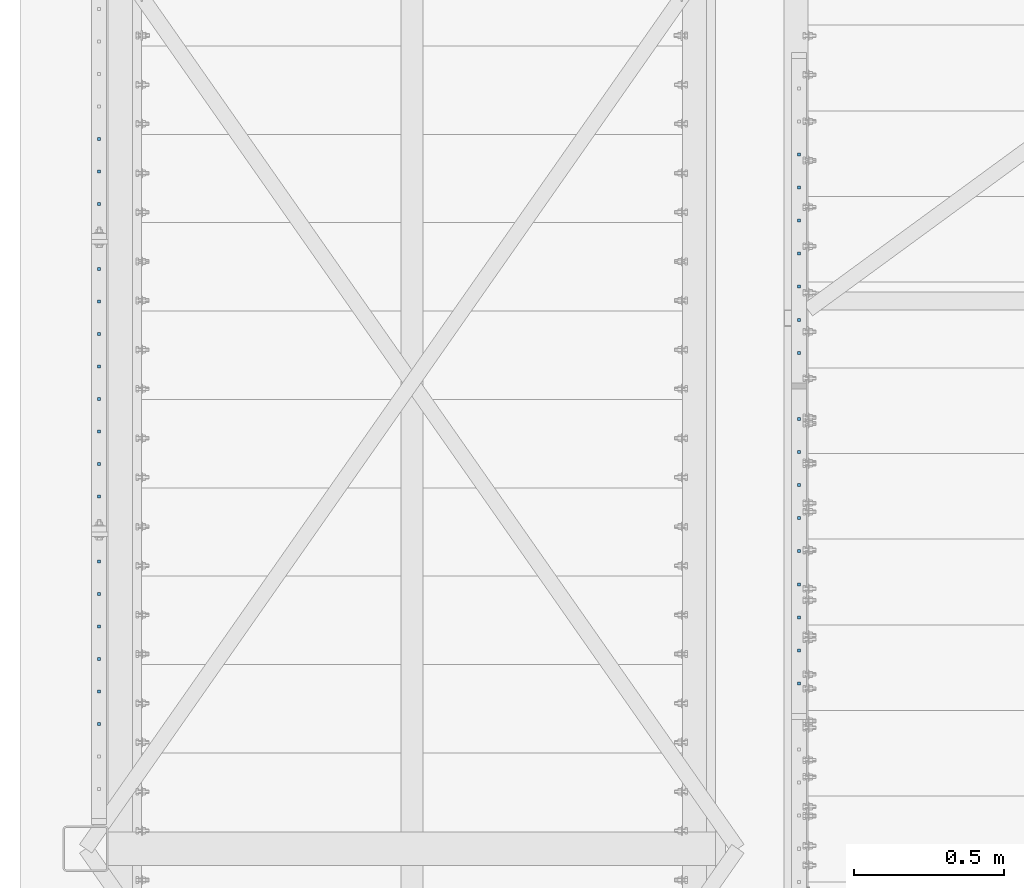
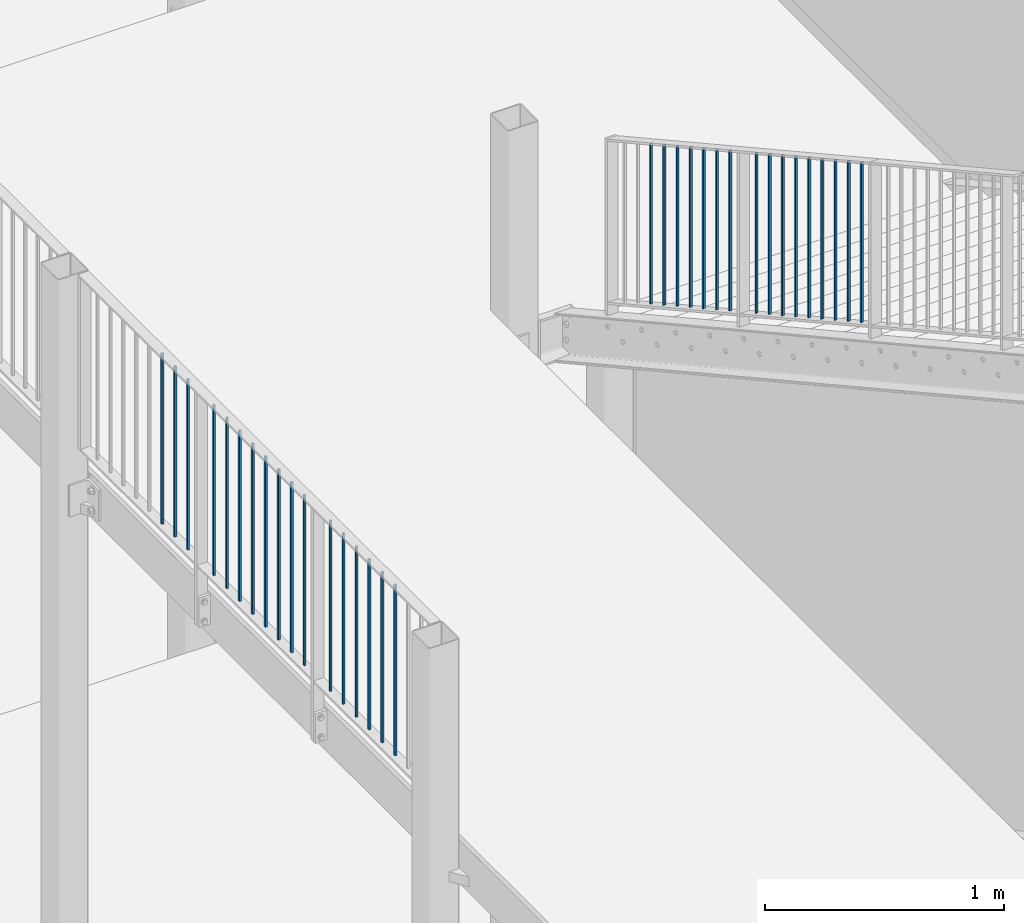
# One storey, part 42 of 78: 33 beams, 2 elements without a shape of their own.
"""IFC2X3 building model written with IfcOpenShell, lengths in millimetres."""

from ifc_helpers import new_model, si_unit, frame, origin_with_axes, origin_2d_with_axis, place, context, subcontext, project, spatial, rectangle, extrude, clip, halfspace, material, type_object, element, aggregate, save


model = new_model("IFC2X3")

# Units and contexts
model_context = context("Model", 3, precision=1e-05, world=origin_with_axes())
body_context = subcontext(model_context, "Body", "Model", "MODEL_VIEW")
ifc_project = project(units=[si_unit("LENGTHUNIT", "METRE", prefix="MILLI"), si_unit("AREAUNIT", "SQUARE_METRE"), si_unit("VOLUMEUNIT", "CUBIC_METRE"), si_unit("MASSUNIT", "GRAM", prefix="KILO"), si_unit("TIMEUNIT", "SECOND"), si_unit("PLANEANGLEUNIT", "RADIAN"), si_unit("SOLIDANGLEUNIT", "STERADIAN"), si_unit("THERMODYNAMICTEMPERATUREUNIT", "DEGREE_CELSIUS"), si_unit("LUMINOUSINTENSITYUNIT", "LUMEN")], contexts=[model_context])

# Site, building, storey
site_placement = place(None, origin_with_axes())
site = spatial("IfcSite", under=ifc_project, at=site_placement, Name="Site", CompositionType="ELEMENT")
building_placement = place(site_placement, origin_with_axes())
building = spatial("IfcBuilding", under=site, at=building_placement, Name="Undefined", CompositionType="ELEMENT")
storey_placement = place(building_placement, origin_with_axes())
storey = spatial("IfcBuildingStorey", under=building, at=storey_placement, Name="Undefined", CompositionType="ELEMENT", Elevation=0.0)

# Assembly, beams
assembly_1_placement = place(storey_placement, origin_with_axes())
assembly_1 = element("IfcElementAssembly", 1, at=assembly_1_placement, inside=storey, Name="MAIN_COURANTE", AssemblyPlace="NOTDEFINED", PredefinedType="RIGID_FRAME")
ifc_material = material(Name="STEEL/S235JR")
beam_type = type_object("IfcBeamType", Name="PL10*10", PredefinedType="NOTDEFINED")
beam_1_placement = place(assembly_1_placement, frame((-35341.43, 7746.88888888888, 157695.04), z_axis=(1.0, 0.0, 0.0), x_axis=(0.0, 0.0, -1.0)))
beam_1 = element("IfcBeam", 2, at=beam_1_placement, type_object=beam_type, material=ifc_material, Name="LISSE", ObjectType="PL10*10", context=body_context, shape_type="Clipping", body=[
    clip(clip(extrude(rectangle(XDim=10.0, YDim=10.0, at=origin_2d_with_axis()), frame((880.0, 0.0, 0.0), z_axis=(-1.0, 0.0, 0.0), x_axis=(0.0, -1.0, 0.0)), (0.0, 0.0, 1.0), 880.0), halfspace(frame((875.0, 0.0, 1005.0), z_axis=(1.0, 0.0, 0.0), x_axis=(0.0, 1.0, 0.0)), False)), halfspace(frame((5.0, 0.0, 1005.0), z_axis=(-1.0, 0.0, 0.0), x_axis=(0.0, -1.0, 0.0)), False)),
])
beam_2_placement = place(assembly_1_placement, frame((-35341.43, 7855.03703703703, 157695.04), z_axis=(1.0, 0.0, 0.0), x_axis=(0.0, 0.0, -1.0)))
beam_2 = element("IfcBeam", 3, at=beam_2_placement, type_object=beam_type, material=ifc_material, Name="LISSE", ObjectType="PL10*10", context=body_context, shape_type="Clipping", body=[
    clip(clip(extrude(rectangle(XDim=10.0, YDim=10.0, at=origin_2d_with_axis()), frame((880.0, 0.0, 0.0), z_axis=(-1.0, 0.0, 0.0), x_axis=(0.0, -1.0, 0.0)), (0.0, 0.0, 1.0), 880.0), halfspace(frame((875.0, 0.0, 1005.0), z_axis=(1.0, 0.0, 0.0), x_axis=(0.0, 1.0, 0.0)), False)), halfspace(frame((5.0, 0.0, 1005.0), z_axis=(-1.0, 0.0, 0.0), x_axis=(0.0, -1.0, 0.0)), False)),
])
beam_3_placement = place(assembly_1_placement, frame((-35341.43, 7963.18518518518, 157695.04), z_axis=(1.0, 0.0, 0.0), x_axis=(0.0, 0.0, -1.0)))
beam_3 = element("IfcBeam", 4, at=beam_3_placement, type_object=beam_type, material=ifc_material, Name="LISSE", ObjectType="PL10*10", context=body_context, shape_type="Clipping", body=[
    clip(clip(extrude(rectangle(XDim=10.0, YDim=10.0, at=origin_2d_with_axis()), frame((880.0, 0.0, 0.0), z_axis=(-1.0, 0.0, 0.0), x_axis=(0.0, -1.0, 0.0)), (0.0, 0.0, 1.0), 880.0), halfspace(frame((875.0, 0.0, 1005.0), z_axis=(1.0, 0.0, 0.0), x_axis=(0.0, 1.0, 0.0)), False)), halfspace(frame((5.0, 0.0, 1005.0), z_axis=(-1.0, 0.0, 0.0), x_axis=(0.0, -1.0, 0.0)), False)),
])
beam_4_placement = place(assembly_1_placement, frame((-35341.43, 8179.48148148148, 157695.04), z_axis=(1.0, 0.0, 0.0), x_axis=(0.0, 0.0, -1.0)))
beam_4 = element("IfcBeam", 5, at=beam_4_placement, type_object=beam_type, material=ifc_material, Name="LISSE", ObjectType="PL10*10", context=body_context, shape_type="Clipping", body=[
    clip(clip(extrude(rectangle(XDim=10.0, YDim=10.0, at=origin_2d_with_axis()), frame((880.0, 0.0, 0.0), z_axis=(-1.0, 0.0, 0.0), x_axis=(0.0, -1.0, 0.0)), (0.0, 0.0, 1.0), 880.0), halfspace(frame((875.0, 0.0, 1005.0), z_axis=(1.0, 0.0, 0.0), x_axis=(0.0, 1.0, 0.0)), False)), halfspace(frame((5.0, 0.0, 1005.0), z_axis=(-1.0, 0.0, 0.0), x_axis=(0.0, -1.0, 0.0)), False)),
])
beam_5_placement = place(assembly_1_placement, frame((-35341.43, 8287.62962962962, 157695.04), z_axis=(1.0, 0.0, 0.0), x_axis=(0.0, 0.0, -1.0)))
beam_5 = element("IfcBeam", 6, at=beam_5_placement, type_object=beam_type, material=ifc_material, Name="LISSE", ObjectType="PL10*10", context=body_context, shape_type="Clipping", body=[
    clip(clip(extrude(rectangle(XDim=10.0, YDim=10.0, at=origin_2d_with_axis()), frame((880.0, 0.0, 0.0), z_axis=(-1.0, 0.0, 0.0), x_axis=(0.0, -1.0, 0.0)), (0.0, 0.0, 1.0), 880.0), halfspace(frame((875.0, 0.0, 1005.0), z_axis=(1.0, 0.0, 0.0), x_axis=(0.0, 1.0, 0.0)), False)), halfspace(frame((5.0, 0.0, 1005.0), z_axis=(-1.0, 0.0, 0.0), x_axis=(0.0, -1.0, 0.0)), False)),
])
beam_6_placement = place(assembly_1_placement, frame((-35341.43, 8395.77777777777, 157695.04), z_axis=(1.0, 0.0, 0.0), x_axis=(0.0, 0.0, -1.0)))
beam_6 = element("IfcBeam", 7, at=beam_6_placement, type_object=beam_type, material=ifc_material, Name="LISSE", ObjectType="PL10*10", context=body_context, shape_type="Clipping", body=[
    clip(clip(extrude(rectangle(XDim=10.0, YDim=10.0, at=origin_2d_with_axis()), frame((880.0, 0.0, 0.0), z_axis=(-1.0, 0.0, 0.0), x_axis=(0.0, -1.0, 0.0)), (0.0, 0.0, 1.0), 880.0), halfspace(frame((875.0, 0.0, 1005.0), z_axis=(1.0, 0.0, 0.0), x_axis=(0.0, 1.0, 0.0)), False)), halfspace(frame((5.0, 0.0, 1005.0), z_axis=(-1.0, 0.0, 0.0), x_axis=(0.0, -1.0, 0.0)), False)),
])
beam_7_placement = place(assembly_1_placement, frame((-35341.43, 8503.92592592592, 157695.04), z_axis=(1.0, 0.0, 0.0), x_axis=(0.0, 0.0, -1.0)))
beam_7 = element("IfcBeam", 8, at=beam_7_placement, type_object=beam_type, material=ifc_material, Name="LISSE", ObjectType="PL10*10", context=body_context, shape_type="Clipping", body=[
    clip(clip(extrude(rectangle(XDim=10.0, YDim=10.0, at=origin_2d_with_axis()), frame((880.0, 0.0, 0.0), z_axis=(-1.0, 0.0, 0.0), x_axis=(0.0, -1.0, 0.0)), (0.0, 0.0, 1.0), 880.0), halfspace(frame((875.0, 0.0, 1005.0), z_axis=(1.0, 0.0, 0.0), x_axis=(0.0, 1.0, 0.0)), False)), halfspace(frame((5.0, 0.0, 1005.0), z_axis=(-1.0, 0.0, 0.0), x_axis=(0.0, -1.0, 0.0)), False)),
])
beam_8_placement = place(assembly_1_placement, frame((-35341.43, 8612.07407407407, 157695.04), z_axis=(1.0, 0.0, 0.0), x_axis=(0.0, 0.0, -1.0)))
beam_8 = element("IfcBeam", 9, at=beam_8_placement, type_object=beam_type, material=ifc_material, Name="LISSE", ObjectType="PL10*10", context=body_context, shape_type="Clipping", body=[
    clip(clip(extrude(rectangle(XDim=10.0, YDim=10.0, at=origin_2d_with_axis()), frame((880.0, 0.0, 0.0), z_axis=(-1.0, 0.0, 0.0), x_axis=(0.0, -1.0, 0.0)), (0.0, 0.0, 1.0), 880.0), halfspace(frame((875.0, 0.0, 1005.0), z_axis=(1.0, 0.0, 0.0), x_axis=(0.0, 1.0, 0.0)), False)), halfspace(frame((5.0, 0.0, 1005.0), z_axis=(-1.0, 0.0, 0.0), x_axis=(0.0, -1.0, 0.0)), False)),
])
beam_9_placement = place(assembly_1_placement, frame((-35341.43, 8720.22222222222, 157695.04), z_axis=(1.0, 0.0, 0.0), x_axis=(0.0, 0.0, -1.0)))
beam_9 = element("IfcBeam", 10, at=beam_9_placement, type_object=beam_type, material=ifc_material, Name="LISSE", ObjectType="PL10*10", context=body_context, shape_type="Clipping", body=[
    clip(clip(extrude(rectangle(XDim=10.0, YDim=10.0, at=origin_2d_with_axis()), frame((880.0, 0.0, 0.0), z_axis=(-1.0, 0.0, 0.0), x_axis=(0.0, -1.0, 0.0)), (0.0, 0.0, 1.0), 880.0), halfspace(frame((875.0, 0.0, 1005.0), z_axis=(1.0, 0.0, 0.0), x_axis=(0.0, 1.0, 0.0)), False)), halfspace(frame((5.0, 0.0, 1005.0), z_axis=(-1.0, 0.0, 0.0), x_axis=(0.0, -1.0, 0.0)), False)),
])
beam_10_placement = place(assembly_1_placement, frame((-35341.43, 8828.37037037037, 157695.04), z_axis=(1.0, 0.0, 0.0), x_axis=(0.0, 0.0, -1.0)))
beam_10 = element("IfcBeam", 11, at=beam_10_placement, type_object=beam_type, material=ifc_material, Name="LISSE", ObjectType="PL10*10", context=body_context, shape_type="Clipping", body=[
    clip(clip(extrude(rectangle(XDim=10.0, YDim=10.0, at=origin_2d_with_axis()), frame((880.0, 0.0, 0.0), z_axis=(-1.0, 0.0, 0.0), x_axis=(0.0, -1.0, 0.0)), (0.0, 0.0, 1.0), 880.0), halfspace(frame((875.0, 0.0, 1005.0), z_axis=(1.0, 0.0, 0.0), x_axis=(0.0, 1.0, 0.0)), False)), halfspace(frame((5.0, 0.0, 1005.0), z_axis=(-1.0, 0.0, 0.0), x_axis=(0.0, -1.0, 0.0)), False)),
])
beam_11_placement = place(assembly_1_placement, frame((-35341.43, 8936.51851851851, 157695.04), z_axis=(1.0, 0.0, 0.0), x_axis=(0.0, 0.0, -1.0)))
beam_11 = element("IfcBeam", 12, at=beam_11_placement, type_object=beam_type, material=ifc_material, Name="LISSE", ObjectType="PL10*10", context=body_context, shape_type="Clipping", body=[
    clip(clip(extrude(rectangle(XDim=10.0, YDim=10.0, at=origin_2d_with_axis()), frame((880.0, 0.0, 0.0), z_axis=(-1.0, 0.0, 0.0), x_axis=(0.0, -1.0, 0.0)), (0.0, 0.0, 1.0), 880.0), halfspace(frame((875.0, 0.0, 1005.0), z_axis=(1.0, 0.0, 0.0), x_axis=(0.0, 1.0, 0.0)), False)), halfspace(frame((5.0, 0.0, 1005.0), z_axis=(-1.0, 0.0, 0.0), x_axis=(0.0, -1.0, 0.0)), False)),
])
beam_12_placement = place(assembly_1_placement, frame((-35341.43, 9152.81481481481, 157695.04), z_axis=(1.0, 0.0, 0.0), x_axis=(0.0, 0.0, -1.0)))
beam_12 = element("IfcBeam", 13, at=beam_12_placement, type_object=beam_type, material=ifc_material, Name="LISSE", ObjectType="PL10*10", context=body_context, shape_type="Clipping", body=[
    clip(clip(extrude(rectangle(XDim=10.0, YDim=10.0, at=origin_2d_with_axis()), frame((880.0, 0.0, 0.0), z_axis=(-1.0, 0.0, 0.0), x_axis=(0.0, -1.0, 0.0)), (0.0, 0.0, 1.0), 880.0), halfspace(frame((875.0, 0.0, 1005.0), z_axis=(1.0, 0.0, 0.0), x_axis=(0.0, 1.0, 0.0)), False)), halfspace(frame((5.0, 0.0, 1005.0), z_axis=(-1.0, 0.0, 0.0), x_axis=(0.0, -1.0, 0.0)), False)),
])
beam_13_placement = place(assembly_1_placement, frame((-35341.43, 9260.96296296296, 157695.04), z_axis=(1.0, 0.0, 0.0), x_axis=(0.0, 0.0, -1.0)))
beam_13 = element("IfcBeam", 14, at=beam_13_placement, type_object=beam_type, material=ifc_material, Name="LISSE", ObjectType="PL10*10", context=body_context, shape_type="Clipping", body=[
    clip(clip(extrude(rectangle(XDim=10.0, YDim=10.0, at=origin_2d_with_axis()), frame((880.0, 0.0, 0.0), z_axis=(-1.0, 0.0, 0.0), x_axis=(0.0, -1.0, 0.0)), (0.0, 0.0, 1.0), 880.0), halfspace(frame((875.0, 0.0, 1005.0), z_axis=(1.0, 0.0, 0.0), x_axis=(0.0, 1.0, 0.0)), False)), halfspace(frame((5.0, 0.0, 1005.0), z_axis=(-1.0, 0.0, 0.0), x_axis=(0.0, -1.0, 0.0)), False)),
])
beam_14_placement = place(assembly_1_placement, frame((-35341.43, 9369.11111111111, 157695.04), z_axis=(1.0, 0.0, 0.0), x_axis=(0.0, 0.0, -1.0)))
beam_14 = element("IfcBeam", 15, at=beam_14_placement, type_object=beam_type, material=ifc_material, Name="LISSE", ObjectType="PL10*10", context=body_context, shape_type="Clipping", body=[
    clip(clip(extrude(rectangle(XDim=10.0, YDim=10.0, at=origin_2d_with_axis()), frame((880.0, 0.0, 0.0), z_axis=(-1.0, 0.0, 0.0), x_axis=(0.0, -1.0, 0.0)), (0.0, 0.0, 1.0), 880.0), halfspace(frame((875.0, 0.0, 1005.0), z_axis=(1.0, 0.0, 0.0), x_axis=(0.0, 1.0, 0.0)), False)), halfspace(frame((5.0, 0.0, 1005.0), z_axis=(-1.0, 0.0, 0.0), x_axis=(0.0, -1.0, 0.0)), False)),
])
beam_15_placement = place(assembly_1_placement, frame((-35341.43, 7530.59259259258, 157695.04), z_axis=(1.0, 0.0, 0.0), x_axis=(0.0, 0.0, -1.0)))
beam_15 = element("IfcBeam", 16, at=beam_15_placement, type_object=beam_type, material=ifc_material, Name="LISSE", ObjectType="PL10*10", context=body_context, shape_type="Clipping", body=[
    clip(clip(extrude(rectangle(XDim=10.0, YDim=10.0, at=origin_2d_with_axis()), frame((880.0, 0.0, 0.0), z_axis=(-1.0, 0.0, 0.0), x_axis=(0.0, -1.0, 0.0)), (0.0, 0.0, 1.0), 880.0), halfspace(frame((875.0, 0.0, 1005.0), z_axis=(1.0, 0.0, 0.0), x_axis=(0.0, 1.0, 0.0)), False)), halfspace(frame((5.0, 0.0, 1005.0), z_axis=(-1.0, 0.0, 0.0), x_axis=(0.0, -1.0, 0.0)), False)),
])
beam_16_placement = place(assembly_1_placement, frame((-35341.43, 7638.74074074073, 157695.04), z_axis=(1.0, 0.0, 0.0), x_axis=(0.0, 0.0, -1.0)))
beam_16 = element("IfcBeam", 17, at=beam_16_placement, type_object=beam_type, material=ifc_material, Name="LISSE", ObjectType="PL10*10", context=body_context, shape_type="Clipping", body=[
    clip(clip(extrude(rectangle(XDim=10.0, YDim=10.0, at=origin_2d_with_axis()), frame((880.0, 0.0, 0.0), z_axis=(-1.0, 0.0, 0.0), x_axis=(0.0, -1.0, 0.0)), (0.0, 0.0, 1.0), 880.0), halfspace(frame((875.0, 0.0, 1005.0), z_axis=(1.0, 0.0, 0.0), x_axis=(0.0, 1.0, 0.0)), False)), halfspace(frame((5.0, 0.0, 1005.0), z_axis=(-1.0, 0.0, 0.0), x_axis=(0.0, -1.0, 0.0)), False)),
])
beam_17_placement = place(assembly_1_placement, frame((-35341.43, 7422.44444444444, 157695.04), z_axis=(1.0, 0.0, 0.0), x_axis=(0.0, 0.0, -1.0)))
beam_17 = element("IfcBeam", 18, at=beam_17_placement, type_object=beam_type, material=ifc_material, Name="LISSE", ObjectType="PL10*10", context=body_context, shape_type="Clipping", body=[
    clip(clip(extrude(rectangle(XDim=10.0, YDim=10.0, at=origin_2d_with_axis()), frame((880.0, 0.0, 0.0), z_axis=(-1.0, 0.0, 0.0), x_axis=(0.0, -1.0, 0.0)), (0.0, 0.0, 1.0), 880.0), halfspace(frame((875.0, 0.0, 1005.0), z_axis=(1.0, 0.0, 0.0), x_axis=(0.0, 1.0, 0.0)), False)), halfspace(frame((5.0, 0.0, 1005.0), z_axis=(-1.0, 0.0, 0.0), x_axis=(0.0, -1.0, 0.0)), False)),
])
aggregate(assembly_1, [beam_1, beam_2, beam_3, beam_4, beam_5, beam_6, beam_7, beam_8, beam_9, beam_10, beam_11, beam_12, beam_13, beam_14, beam_15, beam_16, beam_17])

assembly_2_placement = place(storey_placement, origin_with_axes())
assembly_2 = element("IfcElementAssembly", 19, at=assembly_2_placement, inside=storey, Name="MAIN_COURANTE", AssemblyPlace="NOTDEFINED", PredefinedType="RIGID_FRAME")
beam_18_placement = place(assembly_2_placement, frame((-33012.8599999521, 7557.99999988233, 158954.590450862), z_axis=(1.0, 0.0, 0.0), x_axis=(0.0, 0.0, -1.0)))
beam_18 = element("IfcBeam", 20, at=beam_18_placement, type_object=beam_type, material=ifc_material, Name="LISSE", ObjectType="PL10*10", context=body_context, shape_type="Clipping", body=[
    clip(clip(extrude(rectangle(XDim=10.0, YDim=10.0, at=origin_2d_with_axis()), frame((831.449999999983, 0.0, 0.0), z_axis=(-1.0, 0.0, 0.0), x_axis=(0.0, -1.0, 0.0)), (0.0, 0.0, 1.0), 831.45), halfspace(frame((825.737291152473, 9.09494701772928e-13, 1005.0), z_axis=(0.875241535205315, -0.48368611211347, 0.0), x_axis=(0.48368611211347, 0.875241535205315, 0.0)), False)), halfspace(frame((5.71270869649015, 9.09494701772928e-13, 1005.0), z_axis=(-0.875241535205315, 0.483686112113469, 0.0), x_axis=(-0.483686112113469, -0.875241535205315, 0.0)), False)),
])
beam_19_placement = place(assembly_2_placement, frame((-33012.8599999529, 7667.99999988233, 158893.800977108), z_axis=(1.0, 0.0, 0.0), x_axis=(0.0, 0.0, -1.0)))
beam_19 = element("IfcBeam", 21, at=beam_19_placement, type_object=beam_type, material=ifc_material, Name="LISSE", ObjectType="PL10*10", context=body_context, shape_type="Clipping", body=[
    clip(clip(extrude(rectangle(XDim=10.0, YDim=10.0, at=origin_2d_with_axis()), frame((831.449999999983, 0.0, 0.0), z_axis=(-1.0, 0.0, 0.0), x_axis=(0.0, -1.0, 0.0)), (0.0, 0.0, 1.0), 831.45), halfspace(frame((825.737291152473, 9.09494701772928e-13, 1005.0), z_axis=(0.875241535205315, -0.48368611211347, 0.0), x_axis=(0.48368611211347, 0.875241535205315, 0.0)), False)), halfspace(frame((5.71270869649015, 9.09494701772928e-13, 1005.0), z_axis=(-0.875241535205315, 0.483686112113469, 0.0), x_axis=(-0.483686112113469, -0.875241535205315, 0.0)), False)),
])
beam_20_placement = place(assembly_2_placement, frame((-33012.8599999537, 7777.99999988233, 158833.011503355), z_axis=(1.0, 0.0, 0.0), x_axis=(0.0, 0.0, -1.0)))
beam_20 = element("IfcBeam", 22, at=beam_20_placement, type_object=beam_type, material=ifc_material, Name="LISSE", ObjectType="PL10*10", context=body_context, shape_type="Clipping", body=[
    clip(clip(extrude(rectangle(XDim=10.0, YDim=10.0, at=origin_2d_with_axis()), frame((831.449999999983, 0.0, 0.0), z_axis=(-1.0, 0.0, 0.0), x_axis=(0.0, -1.0, 0.0)), (0.0, 0.0, 1.0), 831.45), halfspace(frame((825.737291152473, 9.09494701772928e-13, 1005.0), z_axis=(0.875241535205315, -0.48368611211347, 0.0), x_axis=(0.48368611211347, 0.875241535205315, 0.0)), False)), halfspace(frame((5.71270869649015, 9.09494701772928e-13, 1005.0), z_axis=(-0.875241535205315, 0.483686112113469, 0.0), x_axis=(-0.483686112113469, -0.875241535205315, 0.0)), False)),
])
beam_21_placement = place(assembly_2_placement, frame((-33012.8599999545, 7887.99999988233, 158772.222029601), z_axis=(1.0, 0.0, 0.0), x_axis=(0.0, 0.0, -1.0)))
beam_21 = element("IfcBeam", 23, at=beam_21_placement, type_object=beam_type, material=ifc_material, Name="LISSE", ObjectType="PL10*10", context=body_context, shape_type="Clipping", body=[
    clip(clip(extrude(rectangle(XDim=10.0, YDim=10.0, at=origin_2d_with_axis()), frame((831.449999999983, 0.0, 0.0), z_axis=(-1.0, 0.0, 0.0), x_axis=(0.0, -1.0, 0.0)), (0.0, 0.0, 1.0), 831.45), halfspace(frame((825.737291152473, 9.09494701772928e-13, 1005.0), z_axis=(0.875241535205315, -0.48368611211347, 0.0), x_axis=(0.48368611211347, 0.875241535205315, 0.0)), False)), halfspace(frame((5.71270869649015, 9.09494701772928e-13, 1005.0), z_axis=(-0.875241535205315, 0.483686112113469, 0.0), x_axis=(-0.483686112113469, -0.875241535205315, 0.0)), False)),
])
beam_22_placement = place(assembly_2_placement, frame((-33012.8599999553, 7997.99999988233, 158711.432555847), z_axis=(1.0, 0.0, 0.0), x_axis=(0.0, 0.0, -1.0)))
beam_22 = element("IfcBeam", 24, at=beam_22_placement, type_object=beam_type, material=ifc_material, Name="LISSE", ObjectType="PL10*10", context=body_context, shape_type="Clipping", body=[
    clip(clip(extrude(rectangle(XDim=10.0, YDim=10.0, at=origin_2d_with_axis()), frame((831.449999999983, 0.0, 0.0), z_axis=(-1.0, 0.0, 0.0), x_axis=(0.0, -1.0, 0.0)), (0.0, 0.0, 1.0), 831.45), halfspace(frame((825.737291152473, 9.09494701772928e-13, 1005.0), z_axis=(0.875241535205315, -0.48368611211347, 0.0), x_axis=(0.48368611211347, 0.875241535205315, 0.0)), False)), halfspace(frame((5.71270869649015, 9.09494701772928e-13, 1005.0), z_axis=(-0.875241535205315, 0.483686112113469, 0.0), x_axis=(-0.483686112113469, -0.875241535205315, 0.0)), False)),
])
beam_23_placement = place(assembly_2_placement, frame((-33012.8599999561, 8107.99999988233, 158650.643082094), z_axis=(1.0, 0.0, 0.0), x_axis=(0.0, 0.0, -1.0)))
beam_23 = element("IfcBeam", 25, at=beam_23_placement, type_object=beam_type, material=ifc_material, Name="LISSE", ObjectType="PL10*10", context=body_context, shape_type="Clipping", body=[
    clip(clip(extrude(rectangle(XDim=10.0, YDim=10.0, at=origin_2d_with_axis()), frame((831.449999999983, 0.0, 0.0), z_axis=(-1.0, 0.0, 0.0), x_axis=(0.0, -1.0, 0.0)), (0.0, 0.0, 1.0), 831.45), halfspace(frame((825.737291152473, 9.09494701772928e-13, 1005.0), z_axis=(0.875241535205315, -0.48368611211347, 0.0), x_axis=(0.48368611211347, 0.875241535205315, 0.0)), False)), halfspace(frame((5.71270869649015, 9.09494701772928e-13, 1005.0), z_axis=(-0.875241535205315, 0.483686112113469, 0.0), x_axis=(-0.483686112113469, -0.875241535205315, 0.0)), False)),
])
beam_24_placement = place(assembly_2_placement, frame((-33012.8599999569, 8217.99999988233, 158589.85360834), z_axis=(1.0, 0.0, 0.0), x_axis=(0.0, 0.0, -1.0)))
beam_24 = element("IfcBeam", 26, at=beam_24_placement, type_object=beam_type, material=ifc_material, Name="LISSE", ObjectType="PL10*10", context=body_context, shape_type="Clipping", body=[
    clip(clip(extrude(rectangle(XDim=10.0, YDim=10.0, at=origin_2d_with_axis()), frame((831.449999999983, 0.0, 0.0), z_axis=(-1.0, 0.0, 0.0), x_axis=(0.0, -1.0, 0.0)), (0.0, 0.0, 1.0), 831.45), halfspace(frame((825.737291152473, 9.09494701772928e-13, 1005.0), z_axis=(0.875241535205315, -0.48368611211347, 0.0), x_axis=(0.48368611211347, 0.875241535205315, 0.0)), False)), halfspace(frame((5.71270869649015, 9.09494701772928e-13, 1005.0), z_axis=(-0.875241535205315, 0.483686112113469, 0.0), x_axis=(-0.483686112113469, -0.875241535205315, 0.0)), False)),
])
beam_25_placement = place(assembly_2_placement, frame((-33012.8599999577, 8327.99999988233, 158529.064134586), z_axis=(1.0, 0.0, 0.0), x_axis=(0.0, 0.0, -1.0)))
beam_25 = element("IfcBeam", 27, at=beam_25_placement, type_object=beam_type, material=ifc_material, Name="LISSE", ObjectType="PL10*10", context=body_context, shape_type="Clipping", body=[
    clip(clip(extrude(rectangle(XDim=10.0, YDim=10.0, at=origin_2d_with_axis()), frame((831.449999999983, 0.0, 0.0), z_axis=(-1.0, 0.0, 0.0), x_axis=(0.0, -1.0, 0.0)), (0.0, 0.0, 1.0), 831.45), halfspace(frame((825.737291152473, 9.09494701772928e-13, 1005.0), z_axis=(0.875241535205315, -0.48368611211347, 0.0), x_axis=(0.48368611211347, 0.875241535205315, 0.0)), False)), halfspace(frame((5.71270869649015, 9.09494701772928e-13, 1005.0), z_axis=(-0.875241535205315, 0.483686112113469, 0.0), x_axis=(-0.483686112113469, -0.875241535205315, 0.0)), False)),
])
beam_26_placement = place(assembly_2_placement, frame((-33012.8599999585, 8437.99999988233, 158468.274660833), z_axis=(1.0, 0.0, 0.0), x_axis=(0.0, 0.0, -1.0)))
beam_26 = element("IfcBeam", 28, at=beam_26_placement, type_object=beam_type, material=ifc_material, Name="LISSE", ObjectType="PL10*10", context=body_context, shape_type="Clipping", body=[
    clip(clip(extrude(rectangle(XDim=10.0, YDim=10.0, at=origin_2d_with_axis()), frame((831.449999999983, 0.0, 0.0), z_axis=(-1.0, 0.0, 0.0), x_axis=(0.0, -1.0, 0.0)), (0.0, 0.0, 1.0), 831.45), halfspace(frame((825.737291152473, 9.09494701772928e-13, 1005.0), z_axis=(0.875241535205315, -0.48368611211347, 0.0), x_axis=(0.48368611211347, 0.875241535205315, 0.0)), False)), halfspace(frame((5.71270869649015, 9.09494701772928e-13, 1005.0), z_axis=(-0.875241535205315, 0.483686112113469, 0.0), x_axis=(-0.483686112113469, -0.875241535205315, 0.0)), False)),
])
beam_27_placement = place(assembly_2_placement, frame((-33012.8599999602, 8657.99999986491, 158346.695713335), z_axis=(1.0, 0.0, 0.0), x_axis=(0.0, 0.0, -1.0)))
beam_27 = element("IfcBeam", 29, at=beam_27_placement, type_object=beam_type, material=ifc_material, Name="LISSE", ObjectType="PL10*10", context=body_context, shape_type="Clipping", body=[
    clip(clip(extrude(rectangle(XDim=10.0, YDim=10.0, at=origin_2d_with_axis()), frame((831.449999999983, 0.0, 0.0), z_axis=(-1.0, 0.0, 0.0), x_axis=(0.0, -1.0, 0.0)), (0.0, 0.0, 1.0), 831.45), halfspace(frame((825.737291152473, 9.09494701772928e-13, 1005.0), z_axis=(0.875241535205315, -0.48368611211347, 0.0), x_axis=(0.48368611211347, 0.875241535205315, 0.0)), False)), halfspace(frame((5.71270869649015, 9.09494701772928e-13, 1005.0), z_axis=(-0.875241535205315, 0.483686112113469, 0.0), x_axis=(-0.483686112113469, -0.875241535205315, 0.0)), False)),
])
beam_28_placement = place(assembly_2_placement, frame((-33012.859999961, 8767.99999986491, 158285.906239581), z_axis=(1.0, 0.0, 0.0), x_axis=(0.0, 0.0, -1.0)))
beam_28 = element("IfcBeam", 30, at=beam_28_placement, type_object=beam_type, material=ifc_material, Name="LISSE", ObjectType="PL10*10", context=body_context, shape_type="Clipping", body=[
    clip(clip(extrude(rectangle(XDim=10.0, YDim=10.0, at=origin_2d_with_axis()), frame((831.449999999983, 0.0, 0.0), z_axis=(-1.0, 0.0, 0.0), x_axis=(0.0, -1.0, 0.0)), (0.0, 0.0, 1.0), 831.45), halfspace(frame((825.737291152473, 9.09494701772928e-13, 1005.0), z_axis=(0.875241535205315, -0.48368611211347, 0.0), x_axis=(0.48368611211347, 0.875241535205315, 0.0)), False)), halfspace(frame((5.71270869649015, 9.09494701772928e-13, 1005.0), z_axis=(-0.875241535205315, 0.483686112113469, 0.0), x_axis=(-0.483686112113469, -0.875241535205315, 0.0)), False)),
])
beam_29_placement = place(assembly_2_placement, frame((-33012.8599999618, 8877.99999986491, 158225.116765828), z_axis=(1.0, 0.0, 0.0), x_axis=(0.0, 0.0, -1.0)))
beam_29 = element("IfcBeam", 31, at=beam_29_placement, type_object=beam_type, material=ifc_material, Name="LISSE", ObjectType="PL10*10", context=body_context, shape_type="Clipping", body=[
    clip(clip(extrude(rectangle(XDim=10.0, YDim=10.0, at=origin_2d_with_axis()), frame((831.449999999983, 0.0, 0.0), z_axis=(-1.0, 0.0, 0.0), x_axis=(0.0, -1.0, 0.0)), (0.0, 0.0, 1.0), 831.45), halfspace(frame((825.737291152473, 9.09494701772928e-13, 1005.0), z_axis=(0.875241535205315, -0.48368611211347, 0.0), x_axis=(0.48368611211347, 0.875241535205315, 0.0)), False)), halfspace(frame((5.71270869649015, 9.09494701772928e-13, 1005.0), z_axis=(-0.875241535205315, 0.483686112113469, 0.0), x_axis=(-0.483686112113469, -0.875241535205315, 0.0)), False)),
])
beam_30_placement = place(assembly_2_placement, frame((-33012.8599999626, 8987.99999986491, 158164.327292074), z_axis=(1.0, 0.0, 0.0), x_axis=(0.0, 0.0, -1.0)))
beam_30 = element("IfcBeam", 32, at=beam_30_placement, type_object=beam_type, material=ifc_material, Name="LISSE", ObjectType="PL10*10", context=body_context, shape_type="Clipping", body=[
    clip(clip(extrude(rectangle(XDim=10.0, YDim=10.0, at=origin_2d_with_axis()), frame((831.449999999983, 0.0, 0.0), z_axis=(-1.0, 0.0, 0.0), x_axis=(0.0, -1.0, 0.0)), (0.0, 0.0, 1.0), 831.45), halfspace(frame((825.737291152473, 9.09494701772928e-13, 1005.0), z_axis=(0.875241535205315, -0.48368611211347, 0.0), x_axis=(0.48368611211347, 0.875241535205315, 0.0)), False)), halfspace(frame((5.71270869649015, 9.09494701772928e-13, 1005.0), z_axis=(-0.875241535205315, 0.483686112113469, 0.0), x_axis=(-0.483686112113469, -0.875241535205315, 0.0)), False)),
])
beam_31_placement = place(assembly_2_placement, frame((-33012.8599999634, 9097.99999986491, 158103.53781832), z_axis=(1.0, 0.0, 0.0), x_axis=(0.0, 0.0, -1.0)))
beam_31 = element("IfcBeam", 33, at=beam_31_placement, type_object=beam_type, material=ifc_material, Name="LISSE", ObjectType="PL10*10", context=body_context, shape_type="Clipping", body=[
    clip(clip(extrude(rectangle(XDim=10.0, YDim=10.0, at=origin_2d_with_axis()), frame((831.449999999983, 0.0, 0.0), z_axis=(-1.0, 0.0, 0.0), x_axis=(0.0, -1.0, 0.0)), (0.0, 0.0, 1.0), 831.45), halfspace(frame((825.737291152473, 9.09494701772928e-13, 1005.0), z_axis=(0.875241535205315, -0.48368611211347, 0.0), x_axis=(0.48368611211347, 0.875241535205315, 0.0)), False)), halfspace(frame((5.71270869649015, 9.09494701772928e-13, 1005.0), z_axis=(-0.875241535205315, 0.483686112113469, 0.0), x_axis=(-0.483686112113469, -0.875241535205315, 0.0)), False)),
])
beam_32_placement = place(assembly_2_placement, frame((-33012.8599999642, 9207.99999986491, 158042.748344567), z_axis=(1.0, 0.0, 0.0), x_axis=(0.0, 0.0, -1.0)))
beam_32 = element("IfcBeam", 34, at=beam_32_placement, type_object=beam_type, material=ifc_material, Name="LISSE", ObjectType="PL10*10", context=body_context, shape_type="Clipping", body=[
    clip(clip(extrude(rectangle(XDim=10.0, YDim=10.0, at=origin_2d_with_axis()), frame((831.449999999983, 0.0, 0.0), z_axis=(-1.0, 0.0, 0.0), x_axis=(0.0, -1.0, 0.0)), (0.0, 0.0, 1.0), 831.45), halfspace(frame((825.737291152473, 9.09494701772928e-13, 1005.0), z_axis=(0.875241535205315, -0.48368611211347, 0.0), x_axis=(0.48368611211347, 0.875241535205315, 0.0)), False)), halfspace(frame((5.71270869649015, 9.09494701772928e-13, 1005.0), z_axis=(-0.875241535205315, 0.483686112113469, 0.0), x_axis=(-0.483686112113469, -0.875241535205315, 0.0)), False)),
])
beam_33_placement = place(assembly_2_placement, frame((-33012.859999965, 9317.99999986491, 157981.958870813), z_axis=(1.0, 0.0, 0.0), x_axis=(0.0, 0.0, -1.0)))
beam_33 = element("IfcBeam", 35, at=beam_33_placement, type_object=beam_type, material=ifc_material, Name="LISSE", ObjectType="PL10*10", context=body_context, shape_type="Clipping", body=[
    clip(clip(extrude(rectangle(XDim=10.0, YDim=10.0, at=origin_2d_with_axis()), frame((831.449999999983, 0.0, 0.0), z_axis=(-1.0, 0.0, 0.0), x_axis=(0.0, -1.0, 0.0)), (0.0, 0.0, 1.0), 831.45), halfspace(frame((825.737291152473, 9.09494701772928e-13, 1005.0), z_axis=(0.875241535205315, -0.48368611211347, 0.0), x_axis=(0.48368611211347, 0.875241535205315, 0.0)), False)), halfspace(frame((5.71270869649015, 9.09494701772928e-13, 1005.0), z_axis=(-0.875241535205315, 0.483686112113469, 0.0), x_axis=(-0.483686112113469, -0.875241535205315, 0.0)), False)),
])
aggregate(assembly_2, [beam_18, beam_19, beam_20, beam_21, beam_22, beam_23, beam_24, beam_25, beam_26, beam_27, beam_28, beam_29, beam_30, beam_31, beam_32, beam_33])

save(model, "model.ifc")
